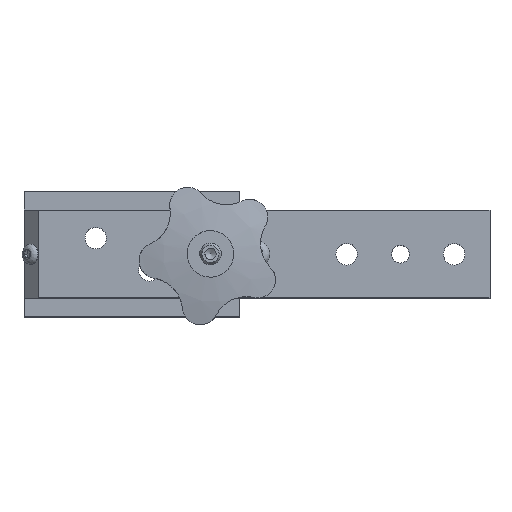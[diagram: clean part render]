
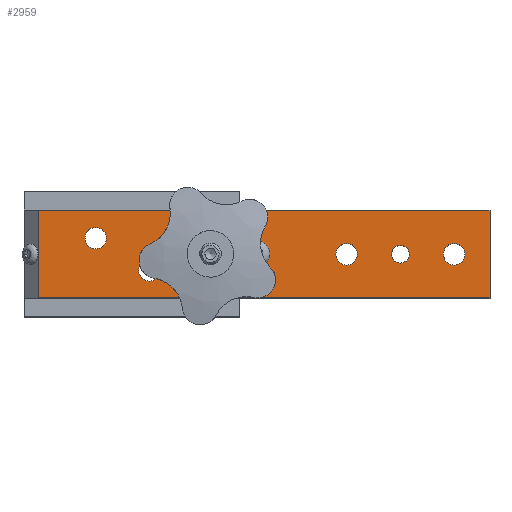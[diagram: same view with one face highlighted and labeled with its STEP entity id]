
A CAD part, top view. The second image highlights one B-rep face of the part: STEP entity #2959.
In plain terms, the highlighted planar face has unit normal (0, 0, 1).
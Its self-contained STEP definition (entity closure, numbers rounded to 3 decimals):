
#260=FACE_BOUND('',#625,.T.);
#261=FACE_BOUND('',#626,.T.);
#262=FACE_BOUND('',#627,.T.);
#263=FACE_BOUND('',#628,.T.);
#264=FACE_BOUND('',#629,.T.);
#265=FACE_BOUND('',#630,.T.);
#266=FACE_BOUND('',#631,.T.);
#267=FACE_BOUND('',#632,.T.);
#312=PLANE('',#3446);
#421=FACE_OUTER_BOUND('',#624,.T.);
#624=EDGE_LOOP('',(#2215,#2216,#2217,#2218));
#625=EDGE_LOOP('',(#2219));
#626=EDGE_LOOP('',(#2220));
#627=EDGE_LOOP('',(#2221));
#628=EDGE_LOOP('',(#2222));
#629=EDGE_LOOP('',(#2223));
#630=EDGE_LOOP('',(#2224));
#631=EDGE_LOOP('',(#2225));
#632=EDGE_LOOP('',(#2226));
#820=CIRCLE('',#3425,3.);
#822=CIRCLE('',#3428,3.);
#832=CIRCLE('',#3447,3.);
#833=CIRCLE('',#3448,3.);
#834=CIRCLE('',#3449,2.459);
#835=CIRCLE('',#3450,1.621);
#836=CIRCLE('',#3451,1.621);
#837=CIRCLE('',#3452,8.5);
#992=LINE('',#4825,#1193);
#993=LINE('',#4828,#1194);
#997=LINE('',#4835,#1198);
#998=LINE('',#4836,#1199);
#1193=VECTOR('',#3917,10.);
#1194=VECTOR('',#3920,10.);
#1198=VECTOR('',#3926,10.);
#1199=VECTOR('',#3927,10.);
#1376=VERTEX_POINT('',#4718);
#1378=VERTEX_POINT('',#4724);
#1402=VERTEX_POINT('',#4818);
#1405=VERTEX_POINT('',#4823);
#1406=VERTEX_POINT('',#4827);
#1408=VERTEX_POINT('',#4834);
#1409=VERTEX_POINT('',#4837);
#1410=VERTEX_POINT('',#4839);
#1411=VERTEX_POINT('',#4841);
#1412=VERTEX_POINT('',#4843);
#1413=VERTEX_POINT('',#4845);
#1414=VERTEX_POINT('',#4847);
#1678=EDGE_CURVE('',#1376,#1376,#820,.T.);
#1681=EDGE_CURVE('',#1378,#1378,#822,.T.);
#1714=EDGE_CURVE('',#1405,#1402,#992,.T.);
#1715=EDGE_CURVE('',#1402,#1406,#993,.T.);
#1719=EDGE_CURVE('',#1408,#1405,#997,.T.);
#1720=EDGE_CURVE('',#1406,#1408,#998,.T.);
#1721=EDGE_CURVE('',#1409,#1409,#832,.T.);
#1722=EDGE_CURVE('',#1410,#1410,#833,.T.);
#1723=EDGE_CURVE('',#1411,#1411,#834,.T.);
#1724=EDGE_CURVE('',#1412,#1412,#835,.T.);
#1725=EDGE_CURVE('',#1413,#1413,#836,.T.);
#1726=EDGE_CURVE('',#1414,#1414,#837,.T.);
#2215=ORIENTED_EDGE('',*,*,#1714,.F.);
#2216=ORIENTED_EDGE('',*,*,#1719,.F.);
#2217=ORIENTED_EDGE('',*,*,#1720,.F.);
#2218=ORIENTED_EDGE('',*,*,#1715,.F.);
#2219=ORIENTED_EDGE('',*,*,#1678,.T.);
#2220=ORIENTED_EDGE('',*,*,#1681,.T.);
#2221=ORIENTED_EDGE('',*,*,#1721,.T.);
#2222=ORIENTED_EDGE('',*,*,#1722,.T.);
#2223=ORIENTED_EDGE('',*,*,#1723,.T.);
#2224=ORIENTED_EDGE('',*,*,#1724,.T.);
#2225=ORIENTED_EDGE('',*,*,#1725,.T.);
#2226=ORIENTED_EDGE('',*,*,#1726,.T.);
#2959=ADVANCED_FACE('',(#421,#260,#261,#262,#263,#264,#265,#266,#267),#312,
 .T.);
#3425=AXIS2_PLACEMENT_3D('',#4719,#3854,#3855);
#3428=AXIS2_PLACEMENT_3D('',#4725,#3861,#3862);
#3446=AXIS2_PLACEMENT_3D('',#4833,#3924,#3925);
#3447=AXIS2_PLACEMENT_3D('',#4838,#3928,#3929);
#3448=AXIS2_PLACEMENT_3D('',#4840,#3930,#3931);
#3449=AXIS2_PLACEMENT_3D('',#4842,#3932,#3933);
#3450=AXIS2_PLACEMENT_3D('',#4844,#3934,#3935);
#3451=AXIS2_PLACEMENT_3D('',#4846,#3936,#3937);
#3452=AXIS2_PLACEMENT_3D('',#4848,#3938,#3939);
#3854=DIRECTION('center_axis',(0.,0.,-1.));
#3855=DIRECTION('ref_axis',(1.,0.,0.));
#3861=DIRECTION('center_axis',(0.,0.,-1.));
#3862=DIRECTION('ref_axis',(1.,0.,0.));
#3917=DIRECTION('',(1.,0.,0.));
#3920=DIRECTION('',(0.,-1.,0.));
#3924=DIRECTION('center_axis',(0.,0.,1.));
#3925=DIRECTION('ref_axis',(1.,0.,0.));
#3926=DIRECTION('',(0.,1.,0.));
#3927=DIRECTION('',(-1.,0.,0.));
#3928=DIRECTION('center_axis',(0.,0.,-1.));
#3929=DIRECTION('ref_axis',(1.,0.,0.));
#3930=DIRECTION('center_axis',(0.,0.,-1.));
#3931=DIRECTION('ref_axis',(1.,0.,0.));
#3932=DIRECTION('center_axis',(0.,0.,-1.));
#3933=DIRECTION('ref_axis',(1.,0.,0.));
#3934=DIRECTION('center_axis',(0.,0.,-1.));
#3935=DIRECTION('ref_axis',(1.,0.,0.));
#3936=DIRECTION('center_axis',(0.,0.,-1.));
#3937=DIRECTION('ref_axis',(1.,0.,0.));
#3938=DIRECTION('center_axis',(0.,0.,-1.));
#3939=DIRECTION('ref_axis',(1.,0.,0.));
#4718=CARTESIAN_POINT('',(14.,4.5,10.));
#4719=CARTESIAN_POINT('Origin',(17.,4.5,10.));
#4724=CARTESIAN_POINT('',(29.,-4.5,10.));
#4725=CARTESIAN_POINT('Origin',(32.,-4.5,10.));
#4818=CARTESIAN_POINT('',(48.,12.15,10.));
#4823=CARTESIAN_POINT('',(-78.,12.15,10.));
#4825=CARTESIAN_POINT('',(-45.5,12.15,10.));
#4827=CARTESIAN_POINT('',(48.,-12.15,10.));
#4828=CARTESIAN_POINT('',(48.,6.175,10.));
#4833=CARTESIAN_POINT('Origin',(-13.,0.,10.));
#4834=CARTESIAN_POINT('',(-78.,-12.15,10.));
#4835=CARTESIAN_POINT('',(-78.,-12.35,10.));
#4836=CARTESIAN_POINT('',(19.5,-12.15,10.));
#4837=CARTESIAN_POINT('',(-41.,0.,10.));
#4838=CARTESIAN_POINT('Origin',(-38.,0.,10.));
#4839=CARTESIAN_POINT('',(-71.,0.,10.));
#4840=CARTESIAN_POINT('Origin',(-68.,0.,10.));
#4841=CARTESIAN_POINT('',(-55.459,0.,10.));
#4842=CARTESIAN_POINT('Origin',(-53.,0.,10.));
#4843=CARTESIAN_POINT('',(11.129,0.,10.));
#4844=CARTESIAN_POINT('Origin',(12.75,0.,10.));
#4845=CARTESIAN_POINT('',(-14.371,0.,10.));
#4846=CARTESIAN_POINT('Origin',(-12.75,0.,10.));
#4847=CARTESIAN_POINT('',(-8.5,0.,10.));
#4848=CARTESIAN_POINT('Origin',(0.,0.,10.));
